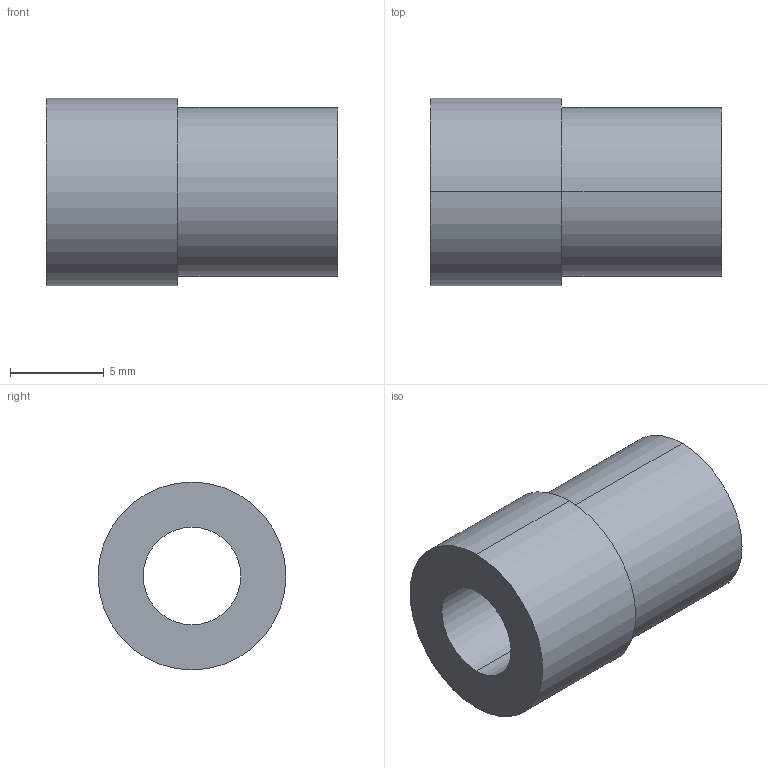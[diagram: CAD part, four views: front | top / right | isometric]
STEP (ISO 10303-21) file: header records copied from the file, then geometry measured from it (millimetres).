
FILE_DESCRIPTION(('Creo Elements/Direct Modeling STEP Export'),'2;1');
FILE_NAME('H05-0016-CL901-02_G15M-05.stp','2021-09-09T11:27:00',(''),(''),'Creo Elements/Direct Modeling STEP processor for AP214 (Solid Model)','Creo Elements/Direct Modeling 20.3B 05-Dec-2020 (C) Parametric Technology GmbH','');
FILE_SCHEMA(('AUTOMOTIVE_DESIGN { 1 0 10303 214 1 1 1 1 }'));
Length unit declared in the file: millimetre
Products named in the file (2): G15M-05
Assembly tree (1 placements, depth 2):
  G15M-05
    G15M-05
Bounding box: 15.5 x 10 x 10 mm (x, y, z)
Volume: 761.3 mm3; surface area: 828.1 mm2
Topology: 1 solids, 1 shells, 9 faces, 18 edges, 12 vertices
Faces by surface type: cylinder 6, plane 3
Entity records: 263 total; most frequent: DIRECTION 40, ORIENTED_EDGE 36, CARTESIAN_POINT 35, EDGE_CURVE 18, AXIS2_PLACEMENT_3D 17, VERTEX_POINT 12, EDGE_LOOP 12, FACE_OUTER_BOUND 9
